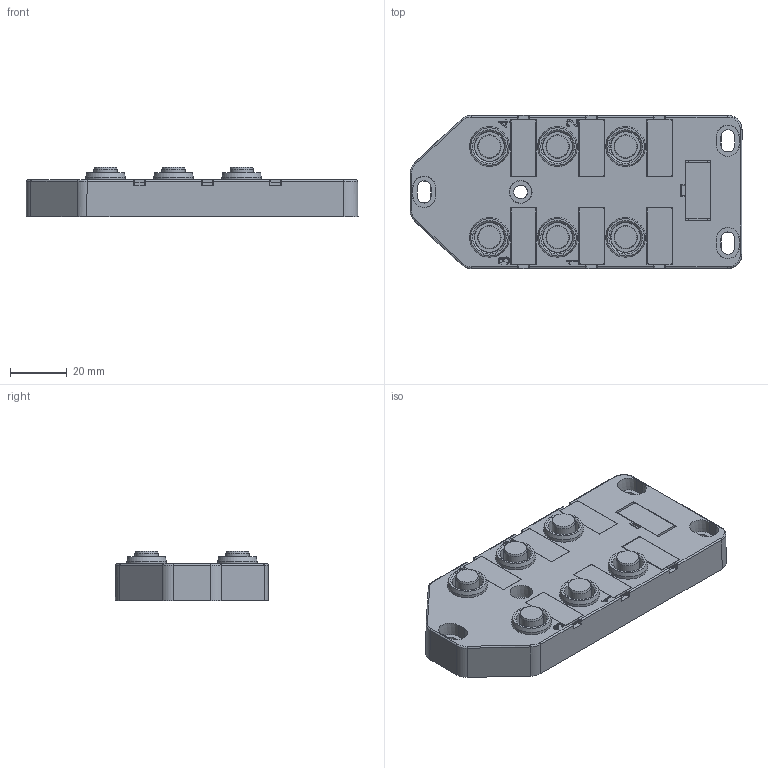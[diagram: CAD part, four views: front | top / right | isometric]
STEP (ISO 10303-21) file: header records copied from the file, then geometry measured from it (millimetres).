
FILE_DESCRIPTION((''),'2;1');
FILE_NAME('C:\Users\enrico\Desktop\Ale\Sito Web Mintec\AUTOMAZIONE_2020\FOTO & STEP Distributori passivi_ciabatte\A cablare\step\M12\ciabatta M12 6 vie a cablare no cavo.stp','2020-08-31T09:47:28',('Tecnico2'),(''),'Autodesk Inventor 2012','Autodesk Inventor 2012','');
FILE_SCHEMA(('AUTOMOTIVE_DESIGN { 1 0 10303 214 1 1 1 1 }'));
Length unit declared in the file: millimetre
Products named in the file (5): 47039-100 no led; Ciab+6vie_M12x1_no cavo_no led; 270101101_ins_fe NEUTRO; 0606725NI (ghiera femmina M12); 2701003BI targhettina ciabatte
Assembly tree (20 placements, depth 2):
  47039-100 no led
    Ciab+6vie_M12x1_no cavo_no led
    270101101_ins_fe NEUTRO  x6
    0606725NI (ghiera femmina M12)  x6
    2701003BI targhettina ciabatte  x7
Bounding box: 117 x 54 x 17.5 mm (x, y, z)
Volume: 55921.5 mm3; surface area: 43872 mm2
Topology: 20 solids, 39 shells, 1958 faces, 5319 edges, 3522 vertices
Faces by surface type: plane 1385, cylinder 310, cone 159, bspline 102, torus 2
Full cylindrical faces by diameter (mm): 0.876 x1, 4.826 x1, 8.2 x6, 10.8 x12, 14 x12
Entity records: 46708 total; most frequent: CARTESIAN_POINT 12378, ORIENTED_EDGE 7402, DIRECTION 6508, EDGE_CURVE 3701, VECTOR 2802, LINE 2802, VERTEX_POINT 2473, AXIS2_PLACEMENT_3D 1853
